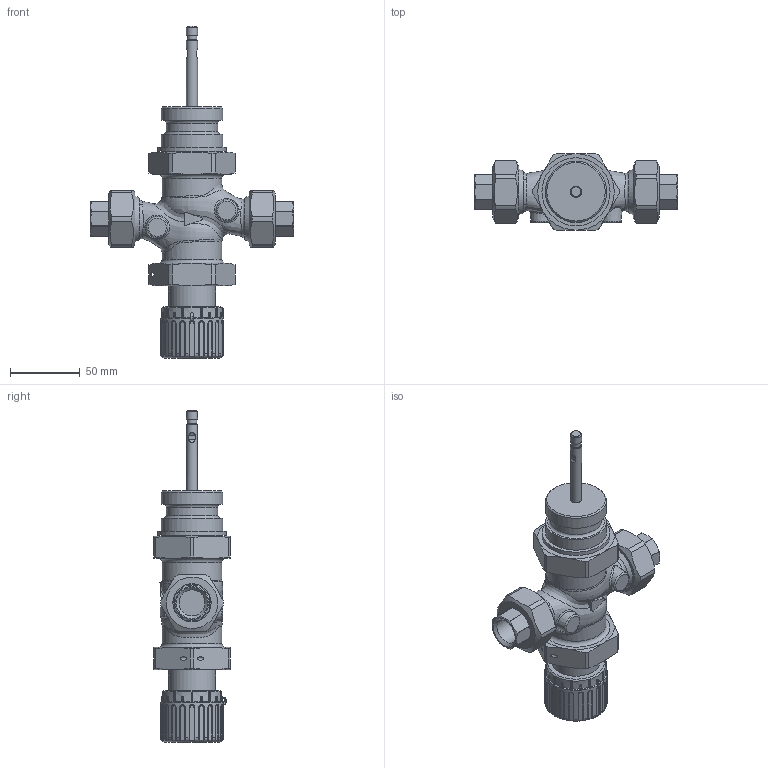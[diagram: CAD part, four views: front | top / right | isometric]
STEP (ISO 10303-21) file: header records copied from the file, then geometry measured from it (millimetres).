
FILE_DESCRIPTION(/* description */ (''),/* implementation_level */ '2;1');
FILE_NAME(/* name */ 'rv122_T_dn15_T.stp',/* time_stamp */ '2025-07-09T07:58:19+02:00',/* author */ ('Jan Novák'),/* organization */ ('LDM'),/* preprocessor_version */ 'ST-DEVELOPER v18.102',/* originating_system */ 'SIEMENS PLM Software NX2206.3001',/* authorisation */ '');
FILE_SCHEMA (('AUTOMOTIVE_DESIGN { 1 0 10303 214 3 1 1 1 }'));
Length unit declared in the file: millimetre
Products named in the file (1): rv_0767-770_rv122_T_dn15_objects
Bounding box: 146 x 55 x 238.6 mm (x, y, z)
Volume: 384226 mm3; surface area: 65836.1 mm2
Topology: 7 solids, 7 shells, 617 faces, 1523 edges, 944 vertices
Faces by surface type: cylinder 218, plane 191, bspline 107, torus 52, cone 49
Full cylindrical faces by diameter (mm): 2 x1, 2.5 x1, 7 x1, 8 x2, 18.631 x2, 21 x2, 21.5 x2, 27 x2, 27.5 x2, 30 x4, 30.291 x2, 33.249 x2, 33.8 x1, 37 x2, 38 x1, 43 x3, 44 x2, 49 x1
Entity records: 28878 total; most frequent: CARTESIAN_POINT 15527, ORIENTED_EDGE 2820, DIRECTION 2536, EDGE_CURVE 1410, AXIS2_PLACEMENT_3D 1053, VERTEX_POINT 903, EDGE_LOOP 725, ADVANCED_FACE 615
